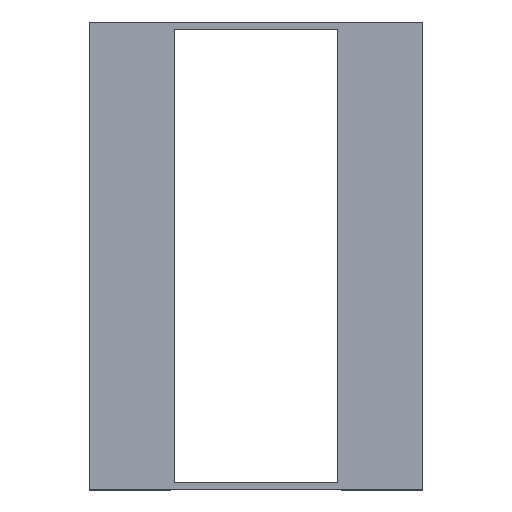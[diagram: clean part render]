
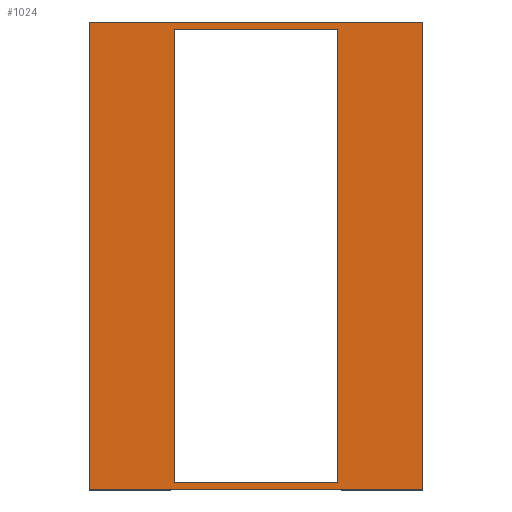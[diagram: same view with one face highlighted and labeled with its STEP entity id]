
A CAD part, top view. The second image highlights one B-rep face of the part: STEP entity #1024.
In plain terms, the highlighted planar face has unit normal (0, 0, 1).
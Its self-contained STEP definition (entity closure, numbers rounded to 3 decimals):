
#32 = PLANE('',#33);
#33 = AXIS2_PLACEMENT_3D('',#34,#35,#36);
#34 = CARTESIAN_POINT('',(6.05,16.55,-2.5));
#35 = DIRECTION('',(0.,1.,0.));
#36 = DIRECTION('',(1.,0.,0.));
#141 = VERTEX_POINT('',#142);
#142 = CARTESIAN_POINT('',(-11.8,16.55,0.));
#156 = PLANE('',#157);
#157 = AXIS2_PLACEMENT_3D('',#158,#159,#160);
#158 = CARTESIAN_POINT('',(-11.8,16.05,-2.5));
#159 = DIRECTION('',(-1.,0.,0.));
#160 = DIRECTION('',(0.,1.,0.));
#168 = EDGE_CURVE('',#141,#169,#171,.T.);
#169 = VERTEX_POINT('',#170);
#170 = CARTESIAN_POINT('',(11.8,16.55,0.));
#171 = SURFACE_CURVE('',#172,(#176,#183),.PCURVE_S1.);
#172 = LINE('',#173,#174);
#173 = CARTESIAN_POINT('',(-11.8,16.55,0.));
#174 = VECTOR('',#175,1.);
#175 = DIRECTION('',(1.,0.,0.));
#176 = PCURVE('',#32,#177);
#177 = DEFINITIONAL_REPRESENTATION('',(#178),#182);
#178 = LINE('',#179,#180);
#179 = CARTESIAN_POINT('',(-17.85,-2.5));
#180 = VECTOR('',#181,1.);
#181 = DIRECTION('',(1.,0.));
#182 = ( GEOMETRIC_REPRESENTATION_CONTEXT(2) 
PARAMETRIC_REPRESENTATION_CONTEXT() REPRESENTATION_CONTEXT('2D SPACE',''
  ) );
#183 = PCURVE('',#184,#189);
#184 = PLANE('',#185);
#185 = AXIS2_PLACEMENT_3D('',#186,#187,#188);
#186 = CARTESIAN_POINT('',(0.,0.,0.));
#187 = DIRECTION('',(-0.,-0.,-1.));
#188 = DIRECTION('',(-1.,0.,0.));
#189 = DEFINITIONAL_REPRESENTATION('',(#190),#194);
#190 = LINE('',#191,#192);
#191 = CARTESIAN_POINT('',(11.8,16.55));
#192 = VECTOR('',#193,1.);
#193 = DIRECTION('',(-1.,0.));
#194 = ( GEOMETRIC_REPRESENTATION_CONTEXT(2) 
PARAMETRIC_REPRESENTATION_CONTEXT() REPRESENTATION_CONTEXT('2D SPACE',''
  ) );
#212 = PLANE('',#213);
#213 = AXIS2_PLACEMENT_3D('',#214,#215,#216);
#214 = CARTESIAN_POINT('',(11.8,16.55,-2.5));
#215 = DIRECTION('',(1.,0.,-0.));
#216 = DIRECTION('',(0.,-1.,0.));
#330 = EDGE_CURVE('',#169,#331,#333,.T.);
#331 = VERTEX_POINT('',#332);
#332 = CARTESIAN_POINT('',(11.8,-16.55,0.));
#333 = SURFACE_CURVE('',#334,(#338,#345),.PCURVE_S1.);
#334 = LINE('',#335,#336);
#335 = CARTESIAN_POINT('',(11.8,16.55,0.));
#336 = VECTOR('',#337,1.);
#337 = DIRECTION('',(0.,-1.,0.));
#338 = PCURVE('',#212,#339);
#339 = DEFINITIONAL_REPRESENTATION('',(#340),#344);
#340 = LINE('',#341,#342);
#341 = CARTESIAN_POINT('',(0.,-2.5));
#342 = VECTOR('',#343,1.);
#343 = DIRECTION('',(1.,0.));
#344 = ( GEOMETRIC_REPRESENTATION_CONTEXT(2) 
PARAMETRIC_REPRESENTATION_CONTEXT() REPRESENTATION_CONTEXT('2D SPACE',''
  ) );
#345 = PCURVE('',#184,#346);
#346 = DEFINITIONAL_REPRESENTATION('',(#347),#351);
#347 = LINE('',#348,#349);
#348 = CARTESIAN_POINT('',(-11.8,16.55));
#349 = VECTOR('',#350,1.);
#350 = DIRECTION('',(0.,-1.));
#351 = ( GEOMETRIC_REPRESENTATION_CONTEXT(2) 
PARAMETRIC_REPRESENTATION_CONTEXT() REPRESENTATION_CONTEXT('2D SPACE',''
  ) );
#369 = PLANE('',#370);
#370 = AXIS2_PLACEMENT_3D('',#371,#372,#373);
#371 = CARTESIAN_POINT('',(11.8,-16.55,-2.5));
#372 = DIRECTION('',(0.,-1.,0.));
#373 = DIRECTION('',(-1.,0.,0.));
#787 = PLANE('',#788);
#788 = AXIS2_PLACEMENT_3D('',#789,#790,#791);
#789 = CARTESIAN_POINT('',(-5.8,16.05,-1.));
#790 = DIRECTION('',(0.,1.,0.));
#791 = DIRECTION('',(1.,0.,0.));
#815 = PLANE('',#816);
#816 = AXIS2_PLACEMENT_3D('',#817,#818,#819);
#817 = CARTESIAN_POINT('',(5.8,16.05,-1.));
#818 = DIRECTION('',(1.,0.,-0.));
#819 = DIRECTION('',(0.,-1.,0.));
#843 = PLANE('',#844);
#844 = AXIS2_PLACEMENT_3D('',#845,#846,#847);
#845 = CARTESIAN_POINT('',(5.8,-16.05,-1.));
#846 = DIRECTION('',(0.,-1.,0.));
#847 = DIRECTION('',(-1.,0.,0.));
#869 = PLANE('',#870);
#870 = AXIS2_PLACEMENT_3D('',#871,#872,#873);
#871 = CARTESIAN_POINT('',(-5.8,-16.05,-1.));
#872 = DIRECTION('',(-1.,0.,0.));
#873 = DIRECTION('',(0.,1.,0.));
#960 = VERTEX_POINT('',#961);
#961 = CARTESIAN_POINT('',(-11.8,-16.55,0.));
#982 = EDGE_CURVE('',#960,#141,#983,.T.);
#983 = SURFACE_CURVE('',#984,(#988,#995),.PCURVE_S1.);
#984 = LINE('',#985,#986);
#985 = CARTESIAN_POINT('',(-11.8,-16.55,0.));
#986 = VECTOR('',#987,1.);
#987 = DIRECTION('',(0.,1.,0.));
#988 = PCURVE('',#156,#989);
#989 = DEFINITIONAL_REPRESENTATION('',(#990),#994);
#990 = LINE('',#991,#992);
#991 = CARTESIAN_POINT('',(-32.6,-2.5));
#992 = VECTOR('',#993,1.);
#993 = DIRECTION('',(1.,0.));
#994 = ( GEOMETRIC_REPRESENTATION_CONTEXT(2) 
PARAMETRIC_REPRESENTATION_CONTEXT() REPRESENTATION_CONTEXT('2D SPACE',''
  ) );
#995 = PCURVE('',#184,#996);
#996 = DEFINITIONAL_REPRESENTATION('',(#997),#1001);
#997 = LINE('',#998,#999);
#998 = CARTESIAN_POINT('',(11.8,-16.55));
#999 = VECTOR('',#1000,1.);
#1000 = DIRECTION('',(0.,1.));
#1001 = ( GEOMETRIC_REPRESENTATION_CONTEXT(2) 
PARAMETRIC_REPRESENTATION_CONTEXT() REPRESENTATION_CONTEXT('2D SPACE',''
  ) );
#1024 = ADVANCED_FACE('',(#1025,#1051),#184,.F.);
#1025 = FACE_BOUND('',#1026,.F.);
#1026 = EDGE_LOOP('',(#1027,#1028,#1029,#1050));
#1027 = ORIENTED_EDGE('',*,*,#168,.T.);
#1028 = ORIENTED_EDGE('',*,*,#330,.T.);
#1029 = ORIENTED_EDGE('',*,*,#1030,.T.);
#1030 = EDGE_CURVE('',#331,#960,#1031,.T.);
#1031 = SURFACE_CURVE('',#1032,(#1036,#1043),.PCURVE_S1.);
#1032 = LINE('',#1033,#1034);
#1033 = CARTESIAN_POINT('',(11.8,-16.55,0.));
#1034 = VECTOR('',#1035,1.);
#1035 = DIRECTION('',(-1.,0.,0.));
#1036 = PCURVE('',#184,#1037);
#1037 = DEFINITIONAL_REPRESENTATION('',(#1038),#1042);
#1038 = LINE('',#1039,#1040);
#1039 = CARTESIAN_POINT('',(-11.8,-16.55));
#1040 = VECTOR('',#1041,1.);
#1041 = DIRECTION('',(1.,0.));
#1042 = ( GEOMETRIC_REPRESENTATION_CONTEXT(2) 
PARAMETRIC_REPRESENTATION_CONTEXT() REPRESENTATION_CONTEXT('2D SPACE',''
  ) );
#1043 = PCURVE('',#369,#1044);
#1044 = DEFINITIONAL_REPRESENTATION('',(#1045),#1049);
#1045 = LINE('',#1046,#1047);
#1046 = CARTESIAN_POINT('',(0.,-2.5));
#1047 = VECTOR('',#1048,1.);
#1048 = DIRECTION('',(1.,0.));
#1049 = ( GEOMETRIC_REPRESENTATION_CONTEXT(2) 
PARAMETRIC_REPRESENTATION_CONTEXT() REPRESENTATION_CONTEXT('2D SPACE',''
  ) );
#1050 = ORIENTED_EDGE('',*,*,#982,.T.);
#1051 = FACE_BOUND('',#1052,.F.);
#1052 = EDGE_LOOP('',(#1053,#1078,#1101,#1124));
#1053 = ORIENTED_EDGE('',*,*,#1054,.F.);
#1054 = EDGE_CURVE('',#1055,#1057,#1059,.T.);
#1055 = VERTEX_POINT('',#1056);
#1056 = CARTESIAN_POINT('',(-5.8,16.05,0.));
#1057 = VERTEX_POINT('',#1058);
#1058 = CARTESIAN_POINT('',(5.8,16.05,0.));
#1059 = SURFACE_CURVE('',#1060,(#1064,#1071),.PCURVE_S1.);
#1060 = LINE('',#1061,#1062);
#1061 = CARTESIAN_POINT('',(-5.8,16.05,0.));
#1062 = VECTOR('',#1063,1.);
#1063 = DIRECTION('',(1.,0.,0.));
#1064 = PCURVE('',#184,#1065);
#1065 = DEFINITIONAL_REPRESENTATION('',(#1066),#1070);
#1066 = LINE('',#1067,#1068);
#1067 = CARTESIAN_POINT('',(5.8,16.05));
#1068 = VECTOR('',#1069,1.);
#1069 = DIRECTION('',(-1.,0.));
#1070 = ( GEOMETRIC_REPRESENTATION_CONTEXT(2) 
PARAMETRIC_REPRESENTATION_CONTEXT() REPRESENTATION_CONTEXT('2D SPACE',''
  ) );
#1071 = PCURVE('',#787,#1072);
#1072 = DEFINITIONAL_REPRESENTATION('',(#1073),#1077);
#1073 = LINE('',#1074,#1075);
#1074 = CARTESIAN_POINT('',(0.,-1.));
#1075 = VECTOR('',#1076,1.);
#1076 = DIRECTION('',(1.,0.));
#1077 = ( GEOMETRIC_REPRESENTATION_CONTEXT(2) 
PARAMETRIC_REPRESENTATION_CONTEXT() REPRESENTATION_CONTEXT('2D SPACE',''
  ) );
#1078 = ORIENTED_EDGE('',*,*,#1079,.F.);
#1079 = EDGE_CURVE('',#1080,#1055,#1082,.T.);
#1080 = VERTEX_POINT('',#1081);
#1081 = CARTESIAN_POINT('',(-5.8,-16.05,0.));
#1082 = SURFACE_CURVE('',#1083,(#1087,#1094),.PCURVE_S1.);
#1083 = LINE('',#1084,#1085);
#1084 = CARTESIAN_POINT('',(-5.8,-16.05,0.));
#1085 = VECTOR('',#1086,1.);
#1086 = DIRECTION('',(0.,1.,0.));
#1087 = PCURVE('',#184,#1088);
#1088 = DEFINITIONAL_REPRESENTATION('',(#1089),#1093);
#1089 = LINE('',#1090,#1091);
#1090 = CARTESIAN_POINT('',(5.8,-16.05));
#1091 = VECTOR('',#1092,1.);
#1092 = DIRECTION('',(0.,1.));
#1093 = ( GEOMETRIC_REPRESENTATION_CONTEXT(2) 
PARAMETRIC_REPRESENTATION_CONTEXT() REPRESENTATION_CONTEXT('2D SPACE',''
  ) );
#1094 = PCURVE('',#869,#1095);
#1095 = DEFINITIONAL_REPRESENTATION('',(#1096),#1100);
#1096 = LINE('',#1097,#1098);
#1097 = CARTESIAN_POINT('',(0.,-1.));
#1098 = VECTOR('',#1099,1.);
#1099 = DIRECTION('',(1.,0.));
#1100 = ( GEOMETRIC_REPRESENTATION_CONTEXT(2) 
PARAMETRIC_REPRESENTATION_CONTEXT() REPRESENTATION_CONTEXT('2D SPACE',''
  ) );
#1101 = ORIENTED_EDGE('',*,*,#1102,.F.);
#1102 = EDGE_CURVE('',#1103,#1080,#1105,.T.);
#1103 = VERTEX_POINT('',#1104);
#1104 = CARTESIAN_POINT('',(5.8,-16.05,0.));
#1105 = SURFACE_CURVE('',#1106,(#1110,#1117),.PCURVE_S1.);
#1106 = LINE('',#1107,#1108);
#1107 = CARTESIAN_POINT('',(5.8,-16.05,0.));
#1108 = VECTOR('',#1109,1.);
#1109 = DIRECTION('',(-1.,0.,0.));
#1110 = PCURVE('',#184,#1111);
#1111 = DEFINITIONAL_REPRESENTATION('',(#1112),#1116);
#1112 = LINE('',#1113,#1114);
#1113 = CARTESIAN_POINT('',(-5.8,-16.05));
#1114 = VECTOR('',#1115,1.);
#1115 = DIRECTION('',(1.,0.));
#1116 = ( GEOMETRIC_REPRESENTATION_CONTEXT(2) 
PARAMETRIC_REPRESENTATION_CONTEXT() REPRESENTATION_CONTEXT('2D SPACE',''
  ) );
#1117 = PCURVE('',#843,#1118);
#1118 = DEFINITIONAL_REPRESENTATION('',(#1119),#1123);
#1119 = LINE('',#1120,#1121);
#1120 = CARTESIAN_POINT('',(0.,-1.));
#1121 = VECTOR('',#1122,1.);
#1122 = DIRECTION('',(1.,0.));
#1123 = ( GEOMETRIC_REPRESENTATION_CONTEXT(2) 
PARAMETRIC_REPRESENTATION_CONTEXT() REPRESENTATION_CONTEXT('2D SPACE',''
  ) );
#1124 = ORIENTED_EDGE('',*,*,#1125,.F.);
#1125 = EDGE_CURVE('',#1057,#1103,#1126,.T.);
#1126 = SURFACE_CURVE('',#1127,(#1131,#1138),.PCURVE_S1.);
#1127 = LINE('',#1128,#1129);
#1128 = CARTESIAN_POINT('',(5.8,16.05,0.));
#1129 = VECTOR('',#1130,1.);
#1130 = DIRECTION('',(0.,-1.,0.));
#1131 = PCURVE('',#184,#1132);
#1132 = DEFINITIONAL_REPRESENTATION('',(#1133),#1137);
#1133 = LINE('',#1134,#1135);
#1134 = CARTESIAN_POINT('',(-5.8,16.05));
#1135 = VECTOR('',#1136,1.);
#1136 = DIRECTION('',(0.,-1.));
#1137 = ( GEOMETRIC_REPRESENTATION_CONTEXT(2) 
PARAMETRIC_REPRESENTATION_CONTEXT() REPRESENTATION_CONTEXT('2D SPACE',''
  ) );
#1138 = PCURVE('',#815,#1139);
#1139 = DEFINITIONAL_REPRESENTATION('',(#1140),#1144);
#1140 = LINE('',#1141,#1142);
#1141 = CARTESIAN_POINT('',(0.,-1.));
#1142 = VECTOR('',#1143,1.);
#1143 = DIRECTION('',(1.,0.));
#1144 = ( GEOMETRIC_REPRESENTATION_CONTEXT(2) 
PARAMETRIC_REPRESENTATION_CONTEXT() REPRESENTATION_CONTEXT('2D SPACE',''
  ) );
